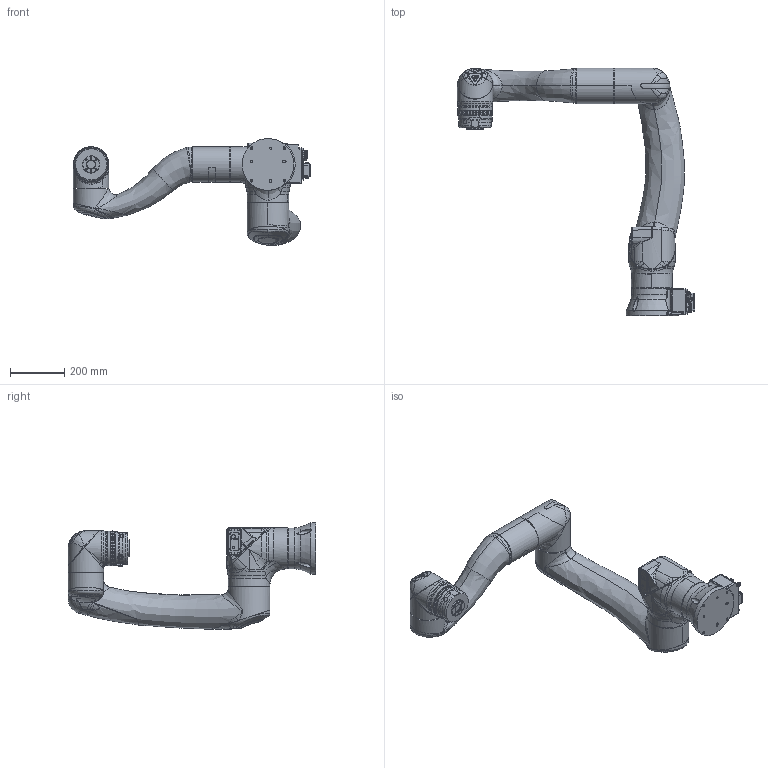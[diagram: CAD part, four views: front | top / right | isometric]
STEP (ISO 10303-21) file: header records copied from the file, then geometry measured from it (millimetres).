
FILE_DESCRIPTION((''),'2;1');
FILE_NAME('ASSY_VIEW_YR-N1-06VXC12-A00_ASM','2025-02-14T09:00:05',('yoizumi'),('YASKAWA ELECTRIC CORCORATION'),'CREO PARAMETRIC BY PTC INC, 2021072','CREO PARAMETRIC BY PTC INC, 2021072','');
FILE_SCHEMA(('AUTOMOTIVE_DESIGN { 1 0 10303 214 1 1 1 1 }'));
Length unit declared in the file: millimetre
Products named in the file (8): BASE_VIEW_YR-N1-06VXC12-A00; SAXIS_VIEW_YR-N1-06VXC12-A00; LAXIS_VIEW_YR-N1-06VXC12-A00; UAXIS_VIEW_YR-N1-06VXC12-A00; RAXIS_VIEW_YR-N1-06VXC12-A00; BAXIS_VIEW_YR-N1-06VXC12-A00; TAXIS_VIEW_YR-N1-06VXC12-A00; ASSY_VIEW_YR-N1-06VXC12-A00_ASM
Assembly tree (7 placements, depth 2):
  ASSY_VIEW_YR-N1-06VXC12-A00_ASM
    BASE_VIEW_YR-N1-06VXC12-A00
    SAXIS_VIEW_YR-N1-06VXC12-A00
    LAXIS_VIEW_YR-N1-06VXC12-A00
    UAXIS_VIEW_YR-N1-06VXC12-A00
    RAXIS_VIEW_YR-N1-06VXC12-A00
    BAXIS_VIEW_YR-N1-06VXC12-A00
    TAXIS_VIEW_YR-N1-06VXC12-A00
Bounding box: 871.65 x 910.01 x 392.49 mm (x, y, z)
Volume: 32492678.6 mm3; surface area: 1254320.9 mm2
Topology: 11 solids, 30 shells, 3157 faces, 8054 edges, 5001 vertices
Faces by surface type: cylinder 1090, plane 817, bspline 730, cone 270, torus 188, sphere 48, revolution 12, extrusion 2
Entity records: 208701 total; most frequent: CARTESIAN_POINT 107481, ORIENTED_EDGE 15996, DIRECTION 13258, EDGE_CURVE 8012, PRESENTATION_STYLE_ASSIGNMENT 6213, STYLED_ITEM 5619, AXIS2_PLACEMENT_3D 5263, VERTEX_POINT 5001
